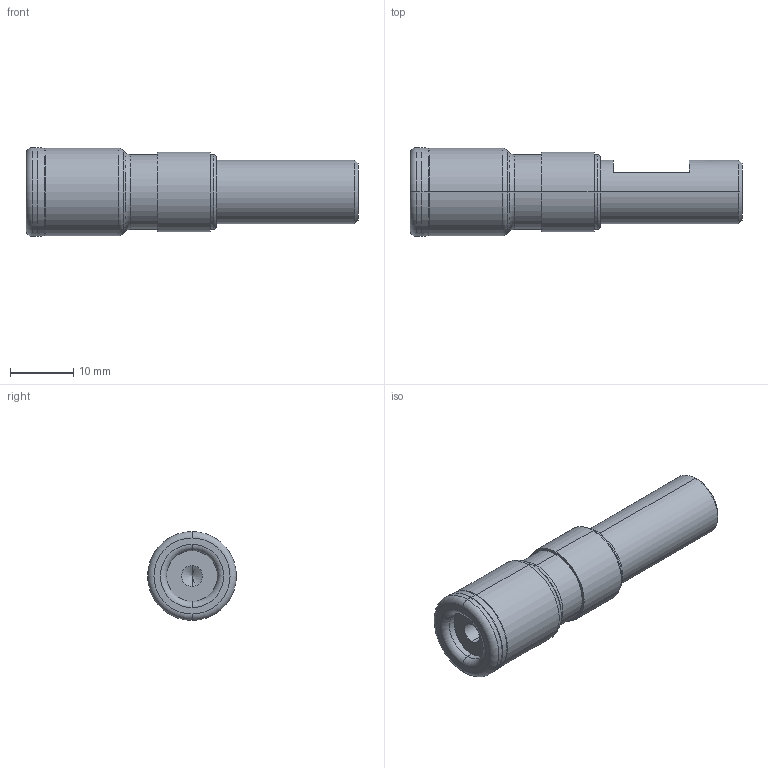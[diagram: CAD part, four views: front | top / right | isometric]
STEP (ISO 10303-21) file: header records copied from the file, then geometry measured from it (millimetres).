
FILE_DESCRIPTION (( 'STEP AP203' ), '1' );
FILE_NAME ('CA.09.14.10.STEP', '2017-06-26T14:19:30', ( 'PC WORKSTATION' ), ( '' ), 'SwSTEP 2.0', 'SolidWorks 2017', '' );
FILE_SCHEMA (( 'CONFIG_CONTROL_DESIGN' ));
Length unit declared in the file: millimetre
Products named in the file (1): CA.09.14.10
Bounding box: 52.3 x 14 x 14 mm (x, y, z)
Volume: 5224.4 mm3; surface area: 2544.7 mm2
Topology: 1 solids, 1 shells, 55 faces, 114 edges, 63 vertices
Faces by surface type: cylinder 20, torus 14, cone 12, plane 9
Entity records: 1495 total; most frequent: DIRECTION 292, CARTESIAN_POINT 227, ORIENTED_EDGE 216, AXIS2_PLACEMENT_3D 128, EDGE_CURVE 108, CIRCLE 72, EDGE_LOOP 63, VERTEX_POINT 63
